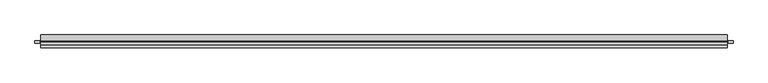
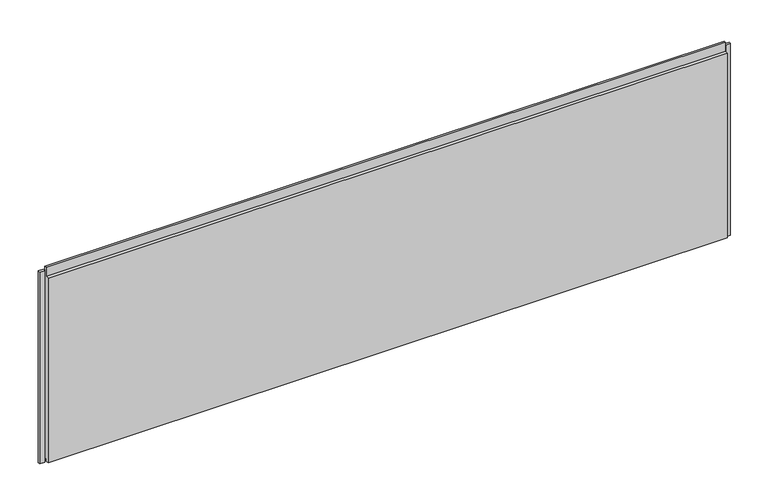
"""IFC4 building model written with IfcOpenShell, lengths in millimetres: plate geometry, Trimo_Qbiss Screen_Normal Panel-HORIZONTAL : HR - B."""

from ifc_helpers import new_model, si_unit, frame, origin, place, context, project, spatial, polyline, outline, extrude, source, transform, mapped, element, save


def plate_9bacf219(model_context):
    return source(origin(), model_context, "Body", "SweptSolid", [
        extrude(outline(polyline([(-1323.0, 76.5978162), (-1323.0, 67.8978162), (-1342.0, 67.8978162), (-1342.0, 76.5978162), (-1323.0, 76.5978162)])), frame((0.0, 0.0, -1.0), z_axis=(0.0, 0.0, 1.0), x_axis=(1.0, 0.0, 0.0)), (0.0, 0.0, 1.0), 787.95),
        extrude(outline(polyline([(1323.0, 67.8978162), (1323.0, 76.5978162), (1342.0, 76.5978162), (1342.0, 67.8978162), (1323.0, 67.8978162)])), frame((0.0, 0.0, -1.0), z_axis=(0.0, 0.0, 1.0), x_axis=(1.0, 0.0, 0.0)), (0.0, 0.0, 1.0), 787.95),
        extrude(outline(polyline([(1320.0, 76.0), (1320.0, 71.0), (-1320.0, 71.0), (-1320.0, 76.0), (1320.0, 76.0)])), frame((0.0, 0.0, 765.95), z_axis=(0.0, 0.0, 1.0), x_axis=(1.0, 0.0, 0.0)), (0.0, 0.0, 1.0), 21.0),
        extrude(outline(polyline([(71.0, 764.95), (100.0, 764.95), (100.0, 0.0), (72.0, 0.0), (72.0, 15.5), (62.0, 15.5), (62.0, 7.0), (50.0, 7.0), (50.0, 764.95), (63.0, 764.95), (63.0, 802.45), (71.0, 802.45), (71.0, 764.95)])), frame((-1320.0, 0.0, 0.0), z_axis=(1.0, 0.0, 0.0), x_axis=(0.0, 1.0, 0.0)), (0.0, 0.0, 1.0), 2640.0),
    ])


if __name__ == "__main__":
    model = new_model("IFC4")
    model_context = context("Model", 3, world=origin())
    ifc_project = project(units=[si_unit("LENGTHUNIT", "METRE", prefix="MILLI")], contexts=[model_context])
    site = spatial("IfcSite", under=ifc_project)
    building = spatial("IfcBuilding", under=site)
    placement = place(None, origin())
    plate_shape = plate_9bacf219(model_context)
    element("IfcPlate", 1, ObjectType="Trimo_Qbiss Screen_Normal Panel-HORIZONTAL : HR - B", at=placement, inside=building, context=model_context, shape_type="MappedRepresentation", body=[
        mapped(plate_shape, transform((0.0, 0.0, 0.0), x_axis=(1.0, 0.0, 0.0), y_axis=(0.0, 1.0, 0.0), z_axis=(0.0, 0.0, 1.0))),
    ])
    save(model, "model.ifc")
